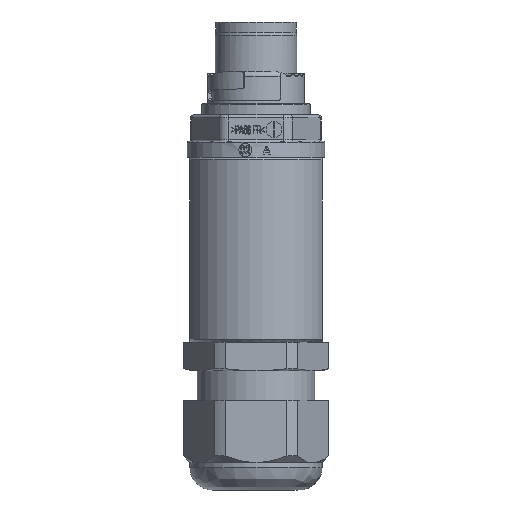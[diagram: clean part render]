
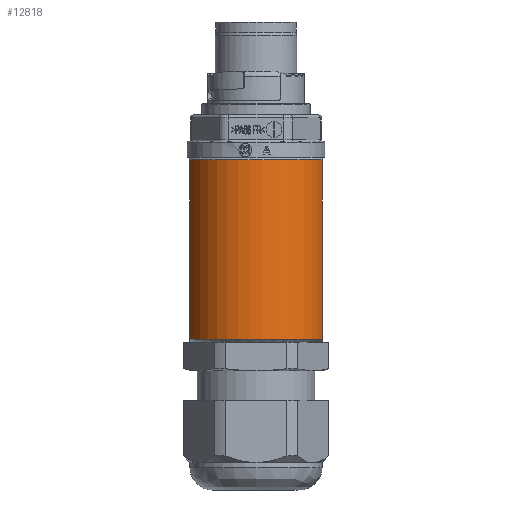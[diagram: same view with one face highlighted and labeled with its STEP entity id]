
A CAD part, front view. The second image highlights one B-rep face of the part: STEP entity #12818.
In plain terms, the highlighted cylindrical face has radius 13 mm (diameter 26 mm), a partial arc.
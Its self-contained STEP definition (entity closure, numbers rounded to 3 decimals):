
#308 = EDGE_CURVE ( 'NONE', #10186, #12608, #1212, .T. ) ;
#1108 = DIRECTION ( 'NONE',  ( 0., 0., -1. ) ) ;
#1195 = FACE_OUTER_BOUND ( 'NONE', #14273, .T. ) ;
#1212 = CIRCLE ( 'NONE', #18667, 13. ) ;
#2871 = DIRECTION ( 'NONE',  ( -1., 0., 0. ) ) ;
#2896 = CARTESIAN_POINT ( 'NONE',  ( -12.5, -3.571, 18.159 ) ) ;
#3388 = ORIENTED_EDGE ( 'NONE', *, *, #20155, .F. ) ;
#3998 = CARTESIAN_POINT ( 'NONE',  ( 0., 0., -23.5 ) ) ;
#5832 = DIRECTION ( 'NONE',  ( 0., 0., -1. ) ) ;
#6548 = VERTEX_POINT ( 'NONE', #12705 ) ;
#7289 = EDGE_CURVE ( 'NONE', #6548, #10186, #17396, .T. ) ;
#7294 = CARTESIAN_POINT ( 'NONE',  ( 12.5, -3.571, 18.159 ) ) ;
#7361 = DIRECTION ( 'NONE',  ( 1., 0., 0. ) ) ;
#8860 = CIRCLE ( 'NONE', #14572, 13. ) ;
#9281 = CARTESIAN_POINT ( 'NONE',  ( -12.5, -3.571, -23.5 ) ) ;
#9935 = AXIS2_PLACEMENT_3D ( 'NONE', #20535, #5832, #2871 ) ;
#10186 = VERTEX_POINT ( 'NONE', #9281 ) ;
#10412 = DIRECTION ( 'NONE',  ( 0., 0., 1. ) ) ;
#10663 = CYLINDRICAL_SURFACE ( 'NONE', #9935, 13. ) ;
#10888 = EDGE_CURVE ( 'NONE', #12034, #6548, #8860, .T. ) ;
#10996 = ORIENTED_EDGE ( 'NONE', *, *, #10888, .T. ) ;
#11991 = CARTESIAN_POINT ( 'NONE',  ( 12.5, -3.571, 10.5 ) ) ;
#12034 = VERTEX_POINT ( 'NONE', #11991 ) ;
#12273 = DIRECTION ( 'NONE',  ( 0., 0., -1. ) ) ;
#12608 = VERTEX_POINT ( 'NONE', #16245 ) ;
#12705 = CARTESIAN_POINT ( 'NONE',  ( -12.5, -3.571, 10.5 ) ) ;
#12818 = ADVANCED_FACE ( 'NONE', ( #1195 ), #10663, .T. ) ;
#14273 = EDGE_LOOP ( 'NONE', ( #3388, #10996, #17139, #19453 ) ) ;
#14572 = AXIS2_PLACEMENT_3D ( 'NONE', #20473, #12273, #15860 ) ;
#14640 = VECTOR ( 'NONE', #15278, 1000. ) ;
#15278 = DIRECTION ( 'NONE',  ( 0., 0., -1. ) ) ;
#15860 = DIRECTION ( 'NONE',  ( 1., 0., 0. ) ) ;
#15982 = VECTOR ( 'NONE', #1108, 1000. ) ;
#16245 = CARTESIAN_POINT ( 'NONE',  ( 12.5, -3.571, -23.5 ) ) ;
#17053 = LINE ( 'NONE', #7294, #14640 ) ;
#17139 = ORIENTED_EDGE ( 'NONE', *, *, #7289, .T. ) ;
#17396 = LINE ( 'NONE', #2896, #15982 ) ;
#18667 = AXIS2_PLACEMENT_3D ( 'NONE', #3998, #10412, #7361 ) ;
#19453 = ORIENTED_EDGE ( 'NONE', *, *, #308, .T. ) ;
#20155 = EDGE_CURVE ( 'NONE', #12034, #12608, #17053, .T. ) ;
#20473 = CARTESIAN_POINT ( 'NONE',  ( 0., 0., 10.5 ) ) ;
#20535 = CARTESIAN_POINT ( 'NONE',  ( 0., 0., 11. ) ) ;
